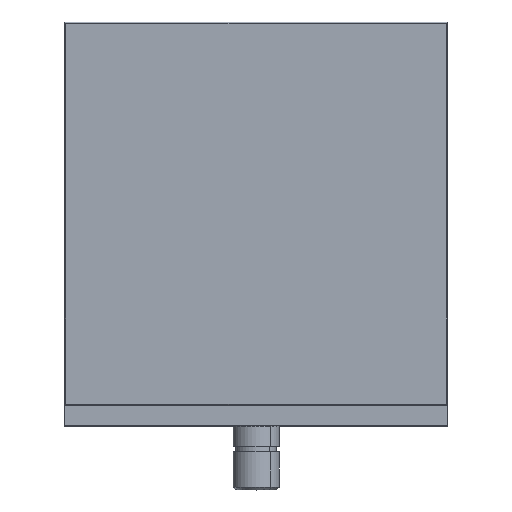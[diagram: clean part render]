
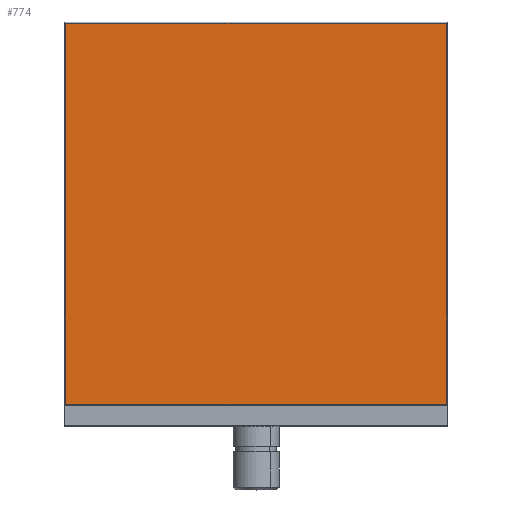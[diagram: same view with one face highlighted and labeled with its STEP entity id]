
A CAD part, top view. The second image highlights one B-rep face of the part: STEP entity #774.
In plain terms, the highlighted planar face has unit normal (0, 0, 1).
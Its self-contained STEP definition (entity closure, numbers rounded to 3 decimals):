
#774=ADVANCED_FACE('',(#1550),#1551,.F.);
#1550=FACE_OUTER_BOUND('',#2338,.T.);
#1551=PLANE('',#2339);
#2338=EDGE_LOOP('',(#4210,#4211,#4212,#4213));
#2339=AXIS2_PLACEMENT_3D('',#4214,#4215,#4216);
#4210=ORIENTED_EDGE('',*,*,#5039,.T.);
#4211=ORIENTED_EDGE('',*,*,#5002,.T.);
#4212=ORIENTED_EDGE('',*,*,#5036,.T.);
#4213=ORIENTED_EDGE('',*,*,#5041,.T.);
#4214=CARTESIAN_POINT('',(150.0,0.,24.0));
#4215=DIRECTION('',(0.,0.,-1.0));
#4216=DIRECTION('',(-1.0,0.0,0.));
#5002=EDGE_CURVE('',#6058,#6060,#6062,.T.);
#5036=EDGE_CURVE('',#6060,#6107,#6109,.T.);
#5039=EDGE_CURVE('',#6111,#6058,#6113,.T.);
#5041=EDGE_CURVE('',#6107,#6111,#6115,.T.);
#6058=VERTEX_POINT('',#7757);
#6060=VERTEX_POINT('',#7760);
#6062=LINE('',#7763,#7764);
#6107=VERTEX_POINT('',#7827);
#6109=LINE('',#7830,#7831);
#6111=VERTEX_POINT('',#7833);
#6113=LINE('',#7836,#7837);
#6115=LINE('',#7839,#7840);
#7757=CARTESIAN_POINT('',(149.5,0.5,24.0));
#7760=CARTESIAN_POINT('',(149.5,149.5,24.0));
#7763=CARTESIAN_POINT('',(149.5,0.,24.0));
#7764=VECTOR('',#8671,1000.0);
#7827=CARTESIAN_POINT('',(0.5,149.5,24.0));
#7830=CARTESIAN_POINT('',(150.0,149.5,24.0));
#7831=VECTOR('',#8703,1000.0);
#7833=CARTESIAN_POINT('',(0.5,0.5,24.0));
#7836=CARTESIAN_POINT('',(150.0,0.5,24.0));
#7837=VECTOR('',#8705,1000.0);
#7839=CARTESIAN_POINT('',(0.5,0.,24.0));
#7840=VECTOR('',#8706,1000.0);
#8671=DIRECTION('',(0.0,1.0,0.));
#8703=DIRECTION('',(-1.0,0.,0.));
#8705=DIRECTION('',(1.0,0.,0.));
#8706=DIRECTION('',(0.0,-1.0,0.));
